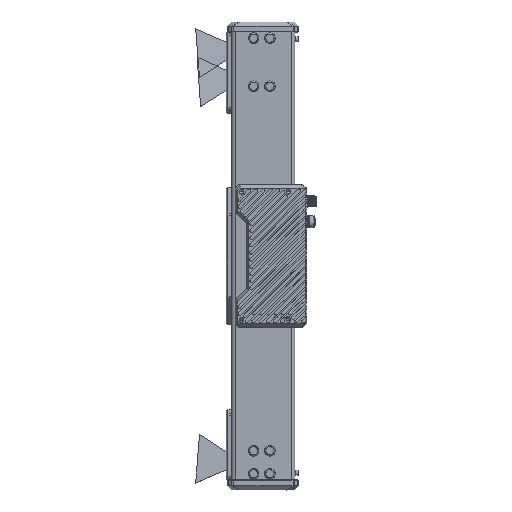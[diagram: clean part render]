
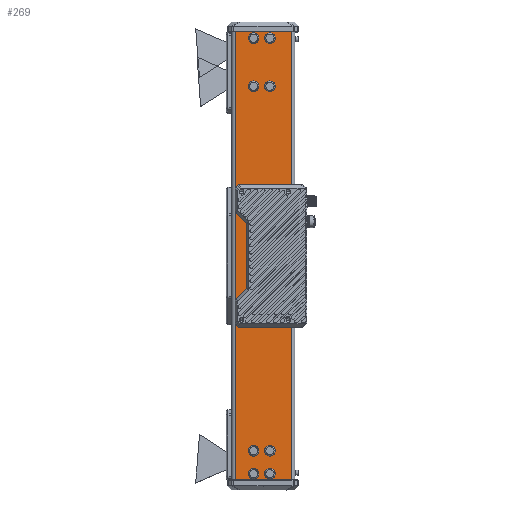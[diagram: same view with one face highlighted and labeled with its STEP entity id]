
A CAD part, top view. The second image highlights one B-rep face of the part: STEP entity #269.
In plain terms, the highlighted planar face has unit normal (0, 0, 1).
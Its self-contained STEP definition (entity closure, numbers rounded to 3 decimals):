
#102=DIRECTION('',(0.,-1.,0.));
#103=VECTOR('',#102,497.);
#104=CARTESIAN_POINT('',(-30.5,248.5,34.5));
#105=LINE('',#104,#103);
#106=DIRECTION('',(1.,0.,0.));
#107=VECTOR('',#106,61.);
#108=CARTESIAN_POINT('',(-30.5,248.5,34.5));
#109=LINE('',#108,#107);
#110=DIRECTION('',(-1.,0.,0.));
#111=VECTOR('',#110,61.);
#112=CARTESIAN_POINT('',(30.5,-248.5,34.5));
#113=LINE('',#112,#111);
#119=DIRECTION('',(0.,1.,0.));
#120=VECTOR('',#119,497.);
#121=CARTESIAN_POINT('',(30.5,-248.5,34.5));
#122=LINE('',#121,#120);
#150=CARTESIAN_POINT('',(-30.5,-248.5,34.5));
#151=VERTEX_POINT('',#150);
#152=CARTESIAN_POINT('',(30.5,-248.5,34.5));
#153=VERTEX_POINT('',#152);
#154=CARTESIAN_POINT('',(30.5,248.5,34.5));
#155=VERTEX_POINT('',#154);
#156=CARTESIAN_POINT('',(-30.5,248.5,34.5));
#157=VERTEX_POINT('',#156);
#255=CARTESIAN_POINT('',(-34.5,-111.5,34.5));
#256=DIRECTION('',(0.,0.,1.));
#257=DIRECTION('',(1.,0.,0.));
#258=AXIS2_PLACEMENT_3D('',#255,#256,#257);
#259=PLANE('',#258);
#260=ORIENTED_EDGE('',*,*,#250,.F.);
#262=ORIENTED_EDGE('',*,*,#261,.T.);
#264=ORIENTED_EDGE('',*,*,#263,.F.);
#266=ORIENTED_EDGE('',*,*,#265,.T.);
#267=EDGE_LOOP('',(#260,#262,#264,#266));
#268=FACE_OUTER_BOUND('',#267,.F.);
#250=EDGE_CURVE('',#157,#151,#105,.T.);
#261=EDGE_CURVE('',#157,#155,#109,.T.);
#263=EDGE_CURVE('',#153,#155,#122,.T.);
#265=EDGE_CURVE('',#153,#151,#113,.T.);
#269=ADVANCED_FACE('',(#268),#259,.T.);
